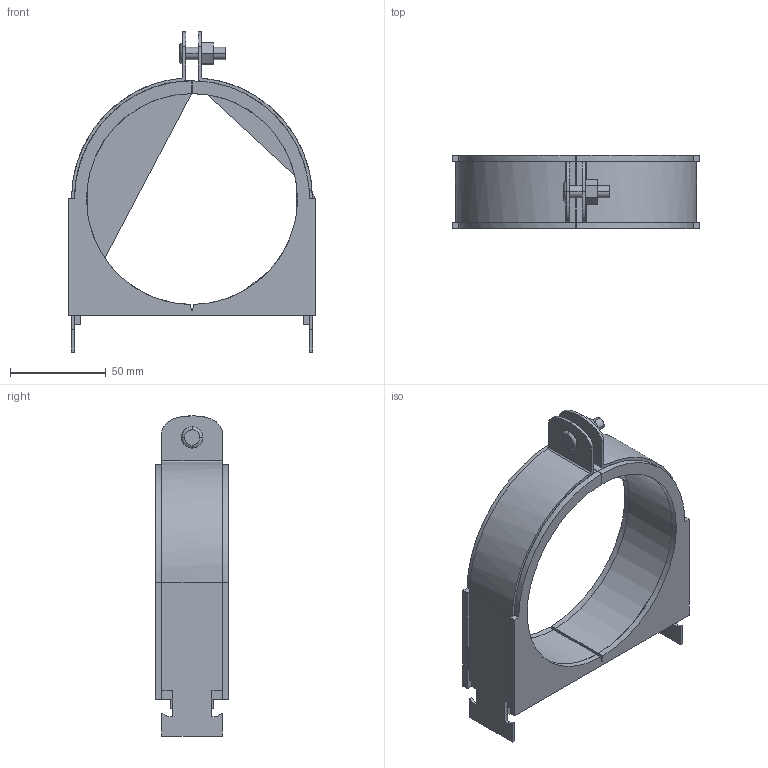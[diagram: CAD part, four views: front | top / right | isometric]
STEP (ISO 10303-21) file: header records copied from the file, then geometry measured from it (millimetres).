
FILE_DESCRIPTION(('TurboCAD Mac Pro'),'Build 980');
FILE_NAME('069N076.stp',' ',(''),(''),'ACIS Interop','IMSI','TurboCAD Mac Pro BY IMSI, INCORPORATED');
FILE_SCHEMA(('automotive_design'));
Length unit declared in the file: inch
Products named in the file (3): 1; 2; 3
Bounding box: 129.15 x 38.1 x 167.38 mm (x, y, z)
Volume: 172092 mm3; surface area: 66920.6 mm2
Topology: 3 solids, 3 shells, 146 faces, 388 edges, 252 vertices
Faces by surface type: plane 100, bspline 46
Entity records: 7102 total; most frequent: CARTESIAN_POINT 1743, ORIENTED_EDGE 776, DIRECTION 494, EDGE_CURVE 388, STYLED_ITEM 317, PRESENTATION_STYLE_ASSIGNMENT 317, COLOUR_RGB 317, LINE 280
